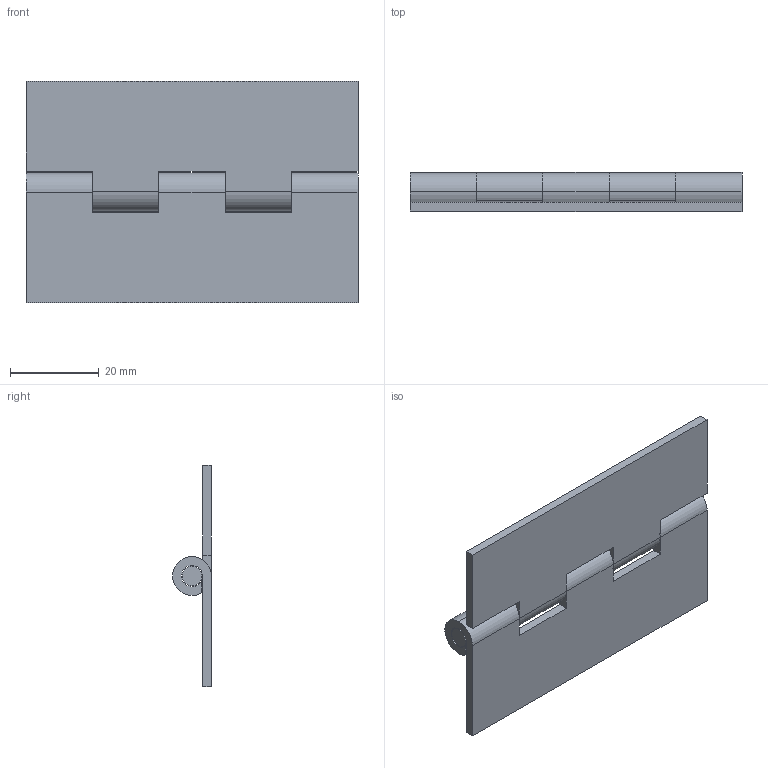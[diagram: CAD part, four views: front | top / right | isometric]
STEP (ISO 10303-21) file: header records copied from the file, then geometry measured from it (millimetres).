
FILE_DESCRIPTION (( 'STEP AP203' ), '1' );
FILE_NAME ('B17-17784.STEP', '2024-10-24T09:37:22', ( '' ), ( '' ), 'SwSTEP 2.0', 'SolidWorks 2021', '' );
FILE_SCHEMA (( 'CONFIG_CONTROL_DESIGN' ));
Length unit declared in the file: millimetre
Products named in the file (4): B17-207804-2; B17-4.5-75; B17-207804-1; B17-17784
Assembly tree (3 placements, depth 2):
  B17-17784
    B17-207804-1
    B17-207804-2
    B17-4.5-75
Bounding box: 75 x 8.8 x 50.01 mm (x, y, z)
Volume: 10769.9 mm3; surface area: 11979.8 mm2
Topology: 3 solids, 3 shells, 67 faces, 183 edges, 122 vertices
Faces by surface type: plane 35, cylinder 32
Entity records: 2555 total; most frequent: DIRECTION 393, CARTESIAN_POINT 378, ORIENTED_EDGE 366, EDGE_CURVE 183, AXIS2_PLACEMENT_3D 137, VERTEX_POINT 122, VECTOR 119, LINE 119
